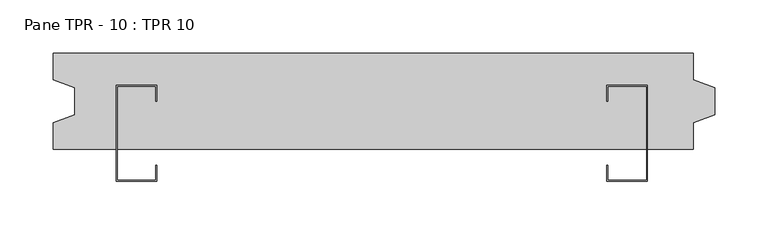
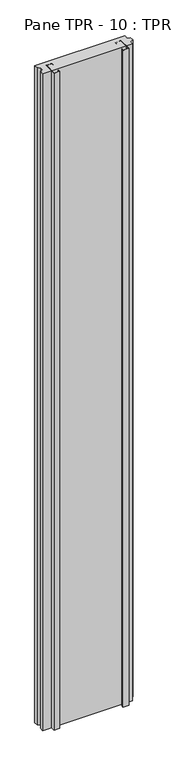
"""IFC4 building model written with IfcOpenShell, lengths in millimetres: plate geometry, Pane TPR - 10 : TPR 10."""

from ifc_helpers import new_model, si_unit, origin, origin_with_axes, place, context, project, spatial, polyline, outline, extrude, source, transform, mapped, element, save


def pane_tpr_10_tpr_10_34bb9cc4(model_context):
    return source(origin(), model_context, "Body", "SweptSolid", [
        extrude(outline(polyline([(-203.0000002, 15.0), (-203.0000002, 0.0), (-203.8500002, 0.0), (-203.8500002, 14.15), (-240.1500002, 14.15), (-240.1500002, -74.15), (-203.8500002, -74.15), (-203.8500002, -60.0), (-203.0000002, -60.0), (-203.0000002, -75.0), (-241.0000002, -75.0), (-241.0000002, 15.0), (-203.0000002, 15.0)])), origin_with_axes(), (0.0, 0.0, 1.0), 4618.8021535),
        extrude(outline(polyline([(219.0000002, 15.0), (257.0000002, 15.0), (257.0000002, -75.0), (219.0000002, -75.0), (219.0000002, -60.0), (219.8500002, -60.0), (219.8500002, -74.15), (256.1500002, -74.15), (256.1500002, 14.15), (219.8500002, 14.15), (219.8500002, 0.0), (219.0000002, 0.0), (219.0000002, 15.0)])), origin_with_axes(), (0.0, 0.0, 1.0), 4618.8021535),
        extrude(outline(polyline([(-300.0000002, 45.0), (300.0000002, 45.0), (300.0000002, 20.0010038), (320.0000002, 12.5), (320.0000002, -12.5), (300.0000002, -20.0010038), (300.0000002, -45.0), (-300.0000002, -45.0), (-300.0000002, -20.0010038), (-280.0000002, -12.5), (-280.0000002, 12.5), (-300.0000002, 20.0010038), (-300.0000002, 45.0)])), origin_with_axes(), (0.0, 0.0, 1.0), 4618.8021535),
    ])


if __name__ == "__main__":
    model = new_model("IFC4")
    model_context = context("Model", 3, world=origin())
    ifc_project = project(units=[si_unit("LENGTHUNIT", "METRE", prefix="MILLI")], contexts=[model_context])
    site = spatial("IfcSite", under=ifc_project)
    building = spatial("IfcBuilding", under=site)
    placement = place(None, origin())
    pane_tpr_10_tpr_10_shape = pane_tpr_10_tpr_10_34bb9cc4(model_context)
    element("IfcPlate", 1, ObjectType="Pane TPR - 10 : TPR 10", at=placement, inside=building, context=model_context, shape_type="MappedRepresentation", body=[
        mapped(pane_tpr_10_tpr_10_shape, transform((0.0, 0.0, 0.0), x_axis=(1.0, 0.0, 0.0), y_axis=(0.0, 1.0, 0.0), z_axis=(0.0, 0.0, 1.0))),
    ])
    save(model, "model.ifc")
